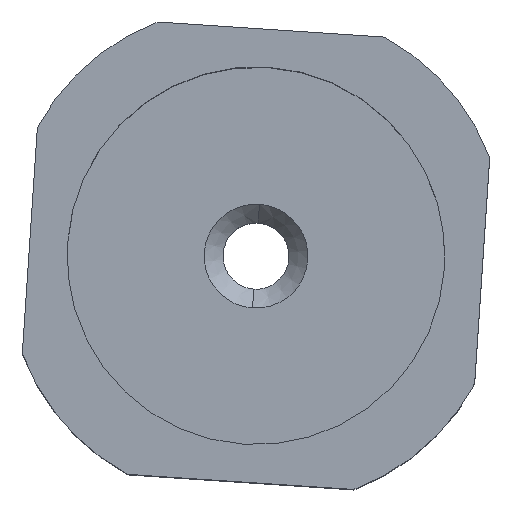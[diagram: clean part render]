
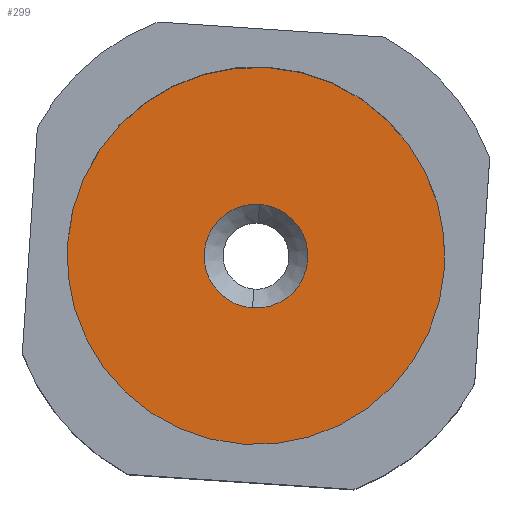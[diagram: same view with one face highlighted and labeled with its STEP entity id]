
A CAD part, top view. The second image highlights one B-rep face of the part: STEP entity #299.
In plain terms, the highlighted planar face has unit normal (0, 0, 1).
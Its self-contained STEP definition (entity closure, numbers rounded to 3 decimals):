
#254=CARTESIAN_POINT('',(10.679,2.674,46.5));
#255=DIRECTION('',(0.067,0.998,0.));
#256=DIRECTION('',(0.,0.,1.));
#257=AXIS2_PLACEMENT_3D('',#254,#256,#255);
#258=PLANE('',#257);
#259=CARTESIAN_POINT('',(9.833,-9.978,46.5));
#260=VERTEX_POINT('',#259);
#261=CARTESIAN_POINT('',(11.167,9.978,46.5));
#262=VERTEX_POINT('',#261);
#263=CARTESIAN_POINT('',(10.5,0.,46.5));
#264=DIRECTION('',(-0.067,-0.998,0.));
#265=DIRECTION('',(0.,0.,1.));
#266=AXIS2_PLACEMENT_3D('',#263,#265,#264);
#267=CIRCLE('',#266,10.);
#268=EDGE_CURVE('',#260,#262,#267,.T.);
#269=ORIENTED_EDGE('E22',*,*,#268,.T.);
#270=CARTESIAN_POINT('',(10.5,0.,46.5));
#271=DIRECTION('',(0.067,0.998,0.));
#272=DIRECTION('',(0.,0.,1.));
#273=AXIS2_PLACEMENT_3D('',#270,#272,#271);
#274=CIRCLE('',#273,10.);
#275=EDGE_CURVE('',#262,#260,#274,.T.);
#276=ORIENTED_EDGE('E71',*,*,#275,.T.);
#277=EDGE_LOOP('',(#269,#276));
#278=FACE_OUTER_BOUND('',#277,.T.);
#279=CARTESIAN_POINT('',(10.316,-2.744,46.5));
#280=VERTEX_POINT('',#279);
#281=CARTESIAN_POINT('',(10.684,2.744,46.5));
#282=VERTEX_POINT('',#281);
#283=CARTESIAN_POINT('',(10.5,0.,46.5));
#284=DIRECTION('',(-0.067,-0.998,0.));
#285=DIRECTION('',(0.,0.,-1.));
#286=AXIS2_PLACEMENT_3D('',#283,#285,#284);
#287=CIRCLE('',#286,2.75);
#288=EDGE_CURVE('',#280,#282,#287,.T.);
#289=ORIENTED_EDGE('E23',*,*,#288,.T.);
#290=CARTESIAN_POINT('',(10.5,0.,46.5));
#291=DIRECTION('',(0.067,0.998,0.));
#292=DIRECTION('',(0.,0.,-1.));
#293=AXIS2_PLACEMENT_3D('',#290,#292,#291);
#294=CIRCLE('',#293,2.75);
#295=EDGE_CURVE('',#282,#280,#294,.T.);
#296=ORIENTED_EDGE('E72',*,*,#295,.T.);
#297=EDGE_LOOP('',(#289,#296));
#298=FACE_BOUND('',#297,.T.);
#299=ADVANCED_FACE('F6',(#278,#298),#258,.T.);
